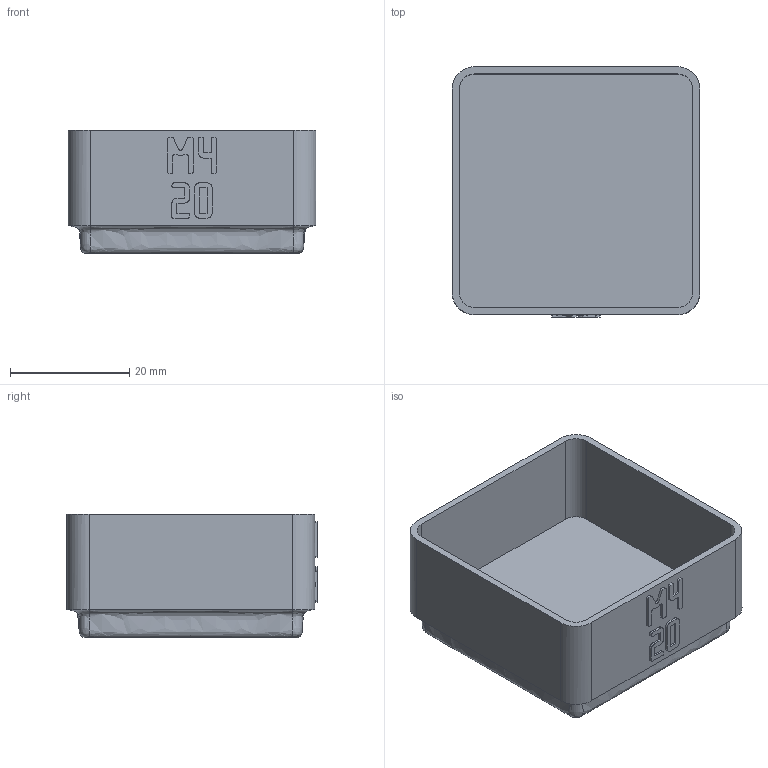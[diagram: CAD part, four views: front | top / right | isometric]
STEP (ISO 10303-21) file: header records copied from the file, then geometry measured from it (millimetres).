
FILE_DESCRIPTION(('Open CASCADE Model'),'2;1');
FILE_NAME('Open CASCADE Shape Model','2026-11-03T15:27:40',('Author'),( 'Open CASCADE'),'Open CASCADE STEP processor 8.0','build123d', 'Unknown');
FILE_SCHEMA(('AUTOMOTIVE_DESIGN { 1 0 10303 214 1 1 1 1 }'));
Length unit declared in the file: millimetre
Products named in the file (1): COMPOUND
Bounding box: 41.5 x 41.9 x 20.75 mm (x, y, z)
Volume: 9644.6 mm3; surface area: 8977.2 mm2
Topology: 1 solids, 1 shells, 408 faces, 1192 edges, 792 vertices
Faces by surface type: plane 392, bspline 8, cylinder 8
Entity records: 28406 total; most frequent: CARTESIAN_POINT 6117, DIRECTION 3582, LINE 2752, VECTOR 2752, ORIENTED_EDGE 2384, PCURVE 2384, DEFINITIONAL_REPRESENTATION 2384, EDGE_CURVE 1192
